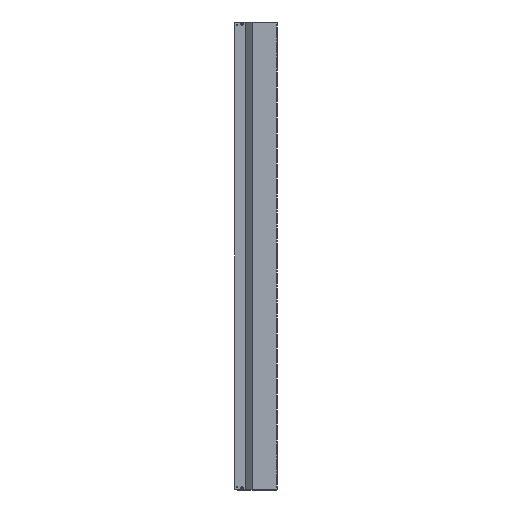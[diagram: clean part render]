
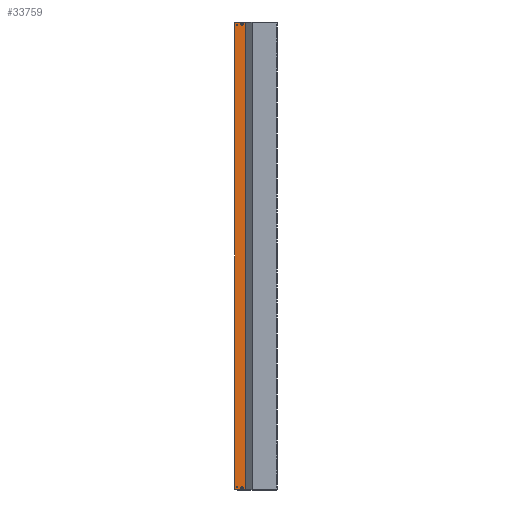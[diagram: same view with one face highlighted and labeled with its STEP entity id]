
A CAD part, left-side view. The second image highlights one B-rep face of the part: STEP entity #33759.
In plain terms, the highlighted planar face has unit normal (-1, 0, 0).
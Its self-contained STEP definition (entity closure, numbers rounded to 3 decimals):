
#2453=LINE('',#48657,#5605);
#2454=LINE('',#48659,#5606);
#2458=LINE('',#48671,#5610);
#2463=LINE('',#48684,#5615);
#2467=LINE('',#48697,#5619);
#2471=LINE('',#48709,#5623);
#2474=LINE('',#48719,#5626);
#2479=LINE('',#48732,#5631);
#2482=LINE('',#48743,#5634);
#2486=LINE('',#48755,#5638);
#2490=LINE('',#48767,#5642);
#2495=LINE('',#48780,#5647);
#5605=VECTOR('',#40785,1000.);
#5606=VECTOR('',#40788,1000.);
#5610=VECTOR('',#40800,1000.);
#5615=VECTOR('',#40813,1000.);
#5619=VECTOR('',#40825,1000.);
#5623=VECTOR('',#40837,1000.);
#5626=VECTOR('',#40848,1000.);
#5631=VECTOR('',#40861,1000.);
#5634=VECTOR('',#40872,1000.);
#5638=VECTOR('',#40884,1000.);
#5642=VECTOR('',#40896,1000.);
#5647=VECTOR('',#40909,1000.);
#6807=PLANE('',#35351);
#12748=ORIENTED_EDGE('',*,*,#18300,.T.);
#12749=ORIENTED_EDGE('',*,*,#18301,.T.);
#12750=ORIENTED_EDGE('',*,*,#18299,.F.);
#12751=ORIENTED_EDGE('',*,*,#18296,.T.);
#12752=ORIENTED_EDGE('',*,*,#18292,.F.);
#12753=ORIENTED_EDGE('',*,*,#18290,.T.);
#12754=ORIENTED_EDGE('',*,*,#18286,.F.);
#12755=ORIENTED_EDGE('',*,*,#18284,.T.);
#12756=ORIENTED_EDGE('',*,*,#18280,.F.);
#12757=ORIENTED_EDGE('',*,*,#18278,.T.);
#12758=ORIENTED_EDGE('',*,*,#18275,.F.);
#12759=ORIENTED_EDGE('',*,*,#18272,.T.);
#12760=ORIENTED_EDGE('',*,*,#18268,.F.);
#12761=ORIENTED_EDGE('',*,*,#18266,.T.);
#12762=ORIENTED_EDGE('',*,*,#18263,.F.);
#12763=ORIENTED_EDGE('',*,*,#18260,.T.);
#12764=ORIENTED_EDGE('',*,*,#18257,.F.);
#12765=ORIENTED_EDGE('',*,*,#18254,.T.);
#12766=ORIENTED_EDGE('',*,*,#18251,.F.);
#12767=ORIENTED_EDGE('',*,*,#18248,.T.);
#12768=ORIENTED_EDGE('',*,*,#18244,.F.);
#12769=ORIENTED_EDGE('',*,*,#18242,.T.);
#12770=ORIENTED_EDGE('',*,*,#18238,.F.);
#12771=ORIENTED_EDGE('',*,*,#18237,.F.);
#18237=EDGE_CURVE('',#21343,#21342,#2453,.T.);
#18238=EDGE_CURVE('',#21342,#21344,#2454,.T.);
#18242=EDGE_CURVE('',#21347,#21344,#22470,.F.);
#18244=EDGE_CURVE('',#21347,#21348,#2458,.T.);
#18248=EDGE_CURVE('',#21351,#21348,#22472,.F.);
#18251=EDGE_CURVE('',#21351,#21343,#2463,.T.);
#18254=EDGE_CURVE('',#21355,#21354,#22474,.T.);
#18257=EDGE_CURVE('',#21355,#21357,#2467,.T.);
#18260=EDGE_CURVE('',#21359,#21357,#22476,.T.);
#18263=EDGE_CURVE('',#21359,#21361,#2471,.T.);
#18266=EDGE_CURVE('',#21363,#21361,#22478,.T.);
#18268=EDGE_CURVE('',#21363,#21364,#2474,.T.);
#18272=EDGE_CURVE('',#21367,#21364,#22480,.T.);
#18275=EDGE_CURVE('',#21367,#21354,#2479,.T.);
#18278=EDGE_CURVE('',#21371,#21370,#22482,.T.);
#18280=EDGE_CURVE('',#21371,#21372,#2482,.T.);
#18284=EDGE_CURVE('',#21375,#21372,#22484,.T.);
#18286=EDGE_CURVE('',#21375,#21376,#2486,.T.);
#18290=EDGE_CURVE('',#21379,#21376,#22486,.T.);
#18292=EDGE_CURVE('',#21379,#21380,#2490,.T.);
#18296=EDGE_CURVE('',#21383,#21380,#22488,.T.);
#18299=EDGE_CURVE('',#21383,#21370,#2495,.T.);
#18300=EDGE_CURVE('',#21384,#21384,#22489,.T.);
#18301=EDGE_CURVE('',#21385,#21385,#22490,.T.);
#21342=VERTEX_POINT('',#48654);
#21343=VERTEX_POINT('',#48656);
#21344=VERTEX_POINT('',#48660);
#21347=VERTEX_POINT('',#48668);
#21348=VERTEX_POINT('',#48672);
#21351=VERTEX_POINT('',#48680);
#21354=VERTEX_POINT('',#48690);
#21355=VERTEX_POINT('',#48692);
#21357=VERTEX_POINT('',#48698);
#21359=VERTEX_POINT('',#48704);
#21361=VERTEX_POINT('',#48710);
#21363=VERTEX_POINT('',#48716);
#21364=VERTEX_POINT('',#48720);
#21367=VERTEX_POINT('',#48728);
#21370=VERTEX_POINT('',#48738);
#21371=VERTEX_POINT('',#48740);
#21372=VERTEX_POINT('',#48744);
#21375=VERTEX_POINT('',#48752);
#21376=VERTEX_POINT('',#48756);
#21379=VERTEX_POINT('',#48764);
#21380=VERTEX_POINT('',#48768);
#21383=VERTEX_POINT('',#48776);
#21384=VERTEX_POINT('',#48783);
#21385=VERTEX_POINT('',#48785);
#22470=CIRCLE('',#35313,1.);
#22472=CIRCLE('',#35317,1.);
#22474=CIRCLE('',#35321,0.2);
#22476=CIRCLE('',#35325,0.2);
#22478=CIRCLE('',#35329,0.2);
#22480=CIRCLE('',#35333,0.2);
#22482=CIRCLE('',#35337,0.2);
#22484=CIRCLE('',#35341,0.2);
#22486=CIRCLE('',#35345,0.2);
#22488=CIRCLE('',#35349,0.2);
#22489=CIRCLE('',#35352,3.9);
#22490=CIRCLE('',#35353,3.9);
#23589=EDGE_LOOP('',(#12748));
#23590=EDGE_LOOP('',(#12749));
#23591=EDGE_LOOP('',(#12750,#12751,#12752,#12753,#12754,#12755,#12756,#12757));
#23592=EDGE_LOOP('',(#12758,#12759,#12760,#12761,#12762,#12763,#12764,#12765));
#23593=EDGE_LOOP('',(#12766,#12767,#12768,#12769,#12770,#12771));
#24821=FACE_BOUND('',#23589,.T.);
#24822=FACE_BOUND('',#23590,.T.);
#24823=FACE_BOUND('',#23591,.T.);
#24824=FACE_BOUND('',#23592,.T.);
#24825=FACE_BOUND('',#23593,.T.);
#33759=ADVANCED_FACE('',(#24821,#24822,#24823,#24824,#24825),#6807,.F.);
#35313=AXIS2_PLACEMENT_3D('',#48667,#40795,#40796);
#35317=AXIS2_PLACEMENT_3D('',#48679,#40807,#40808);
#35321=AXIS2_PLACEMENT_3D('',#48691,#40819,#40820);
#35325=AXIS2_PLACEMENT_3D('',#48703,#40831,#40832);
#35329=AXIS2_PLACEMENT_3D('',#48715,#40843,#40844);
#35333=AXIS2_PLACEMENT_3D('',#48727,#40855,#40856);
#35337=AXIS2_PLACEMENT_3D('',#48739,#40867,#40868);
#35341=AXIS2_PLACEMENT_3D('',#48751,#40879,#40880);
#35345=AXIS2_PLACEMENT_3D('',#48763,#40891,#40892);
#35349=AXIS2_PLACEMENT_3D('',#48775,#40903,#40904);
#35351=AXIS2_PLACEMENT_3D('',#48781,#40910,#40911);
#35352=AXIS2_PLACEMENT_3D('',#48782,#40912,#40913);
#35353=AXIS2_PLACEMENT_3D('',#48784,#40914,#40915);
#40785=DIRECTION('',(0.,0.,-1.));
#40788=DIRECTION('',(0.,1.,0.));
#40795=DIRECTION('',(1.,0.,0.));
#40796=DIRECTION('',(0.,0.,-1.));
#40800=DIRECTION('',(0.,0.,1.));
#40807=DIRECTION('',(1.,0.,0.));
#40808=DIRECTION('',(0.,0.,-1.));
#40813=DIRECTION('',(0.,-1.,0.));
#40819=DIRECTION('',(1.,0.,0.));
#40820=DIRECTION('',(0.,0.,-1.));
#40825=DIRECTION('',(0.,1.,0.));
#40831=DIRECTION('',(1.,0.,0.));
#40832=DIRECTION('',(0.,0.,-1.));
#40837=DIRECTION('',(0.,0.,-1.));
#40843=DIRECTION('',(1.,0.,0.));
#40844=DIRECTION('',(0.,0.,-1.));
#40848=DIRECTION('',(0.,-1.,0.));
#40855=DIRECTION('',(1.,0.,0.));
#40856=DIRECTION('',(0.,0.,-1.));
#40861=DIRECTION('',(0.,0.,1.));
#40867=DIRECTION('',(1.,0.,0.));
#40868=DIRECTION('',(0.,0.,-1.));
#40872=DIRECTION('',(0.,0.,-1.));
#40879=DIRECTION('',(1.,0.,0.));
#40880=DIRECTION('',(0.,0.,-1.));
#40884=DIRECTION('',(0.,-1.,0.));
#40891=DIRECTION('',(1.,0.,0.));
#40892=DIRECTION('',(0.,0.,-1.));
#40896=DIRECTION('',(0.,0.,1.));
#40903=DIRECTION('',(1.,0.,0.));
#40904=DIRECTION('',(0.,0.,-1.));
#40909=DIRECTION('',(0.,1.,0.));
#40910=DIRECTION('',(1.,0.,0.));
#40911=DIRECTION('',(0.,0.,-1.));
#40912=DIRECTION('',(1.,0.,0.));
#40913=DIRECTION('',(0.,0.,-1.));
#40914=DIRECTION('',(1.,0.,0.));
#40915=DIRECTION('',(0.,0.,-1.));
#48654=CARTESIAN_POINT('',(-28.24,103.276,-761.65));
#48656=CARTESIAN_POINT('',(-28.24,103.276,761.65));
#48657=CARTESIAN_POINT('',(-28.24,103.276,761.65));
#48659=CARTESIAN_POINT('',(-28.24,103.275,-761.65));
#48660=CARTESIAN_POINT('',(-28.24,137.275,-761.65));
#48667=CARTESIAN_POINT('',(-28.24,137.275,-760.65));
#48668=CARTESIAN_POINT('',(-28.24,138.275,-760.65));
#48671=CARTESIAN_POINT('',(-28.24,138.275,-761.65));
#48672=CARTESIAN_POINT('',(-28.24,138.275,760.65));
#48679=CARTESIAN_POINT('',(-28.24,137.275,760.65));
#48680=CARTESIAN_POINT('',(-28.24,137.275,761.65));
#48684=CARTESIAN_POINT('',(-28.24,138.275,761.65));
#48690=CARTESIAN_POINT('',(-28.24,129.7,-750.65));
#48691=CARTESIAN_POINT('',(-28.24,129.9,-750.65));
#48692=CARTESIAN_POINT('',(-28.24,129.9,-750.45));
#48697=CARTESIAN_POINT('',(-28.24,0.,-750.45));
#48698=CARTESIAN_POINT('',(-28.24,131.1,-750.45));
#48703=CARTESIAN_POINT('',(-28.24,131.1,-750.65));
#48704=CARTESIAN_POINT('',(-28.24,131.3,-750.65));
#48709=CARTESIAN_POINT('',(-28.24,131.3,0.));
#48710=CARTESIAN_POINT('',(-28.24,131.3,-753.45));
#48715=CARTESIAN_POINT('',(-28.24,131.1,-753.45));
#48716=CARTESIAN_POINT('',(-28.24,131.1,-753.65));
#48719=CARTESIAN_POINT('',(-28.24,0.,-753.65));
#48720=CARTESIAN_POINT('',(-28.24,129.9,-753.65));
#48727=CARTESIAN_POINT('',(-28.24,129.9,-753.45));
#48728=CARTESIAN_POINT('',(-28.24,129.7,-753.45));
#48732=CARTESIAN_POINT('',(-28.24,129.7,0.));
#48738=CARTESIAN_POINT('',(-28.24,131.1,753.65));
#48739=CARTESIAN_POINT('',(-28.24,131.1,753.45));
#48740=CARTESIAN_POINT('',(-28.24,131.3,753.45));
#48743=CARTESIAN_POINT('',(-28.24,131.3,0.));
#48744=CARTESIAN_POINT('',(-28.24,131.3,750.65));
#48751=CARTESIAN_POINT('',(-28.24,131.1,750.65));
#48752=CARTESIAN_POINT('',(-28.24,131.1,750.45));
#48755=CARTESIAN_POINT('',(-28.24,0.,750.45));
#48756=CARTESIAN_POINT('',(-28.24,129.9,750.45));
#48763=CARTESIAN_POINT('',(-28.24,129.9,750.65));
#48764=CARTESIAN_POINT('',(-28.24,129.7,750.65));
#48767=CARTESIAN_POINT('',(-28.24,129.7,0.));
#48768=CARTESIAN_POINT('',(-28.24,129.7,753.45));
#48775=CARTESIAN_POINT('',(-28.24,129.9,753.45));
#48776=CARTESIAN_POINT('',(-28.24,129.9,753.65));
#48780=CARTESIAN_POINT('',(-28.24,0.,753.65));
#48781=CARTESIAN_POINT('',(-28.24,0.,0.));
#48782=CARTESIAN_POINT('',(-28.24,114.7,-756.949));
#48783=CARTESIAN_POINT('',(-28.24,114.7,-760.849));
#48784=CARTESIAN_POINT('',(-28.24,114.7,756.949));
#48785=CARTESIAN_POINT('',(-28.24,114.7,753.049));
